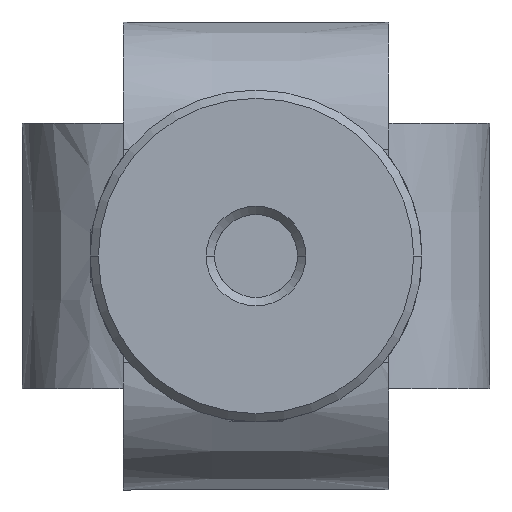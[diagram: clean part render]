
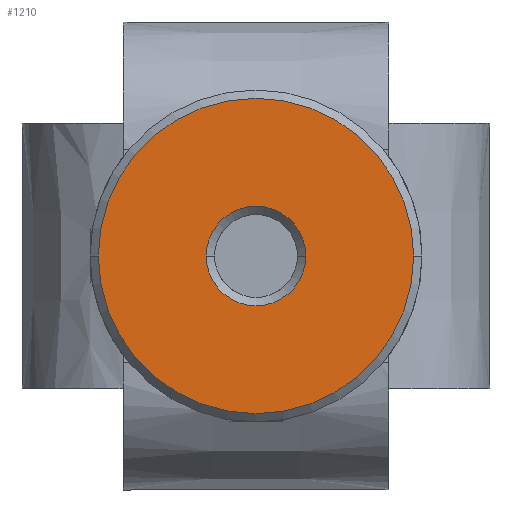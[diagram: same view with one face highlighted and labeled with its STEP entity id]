
A CAD part, front view. The second image highlights one B-rep face of the part: STEP entity #1210.
In plain terms, the highlighted planar face has unit normal (0, -1, 0).
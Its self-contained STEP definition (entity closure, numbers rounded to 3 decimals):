
#27 = CARTESIAN_POINT ( 'NONE',  ( 0., -35.24, 0. ) ) ;
#168 = DIRECTION ( 'NONE',  ( -1., 0., 0. ) ) ;
#750 = DIRECTION ( 'NONE',  ( -1., 0., 0. ) ) ;
#764 = CARTESIAN_POINT ( 'NONE',  ( 9.5, -35.24, 0. ) ) ;
#789 = EDGE_CURVE ( 'NONE', #2491, #4830, #3309, .T. ) ;
#918 = VERTEX_POINT ( 'NONE', #2017 ) ;
#1184 = CIRCLE ( 'NONE', #2052, 9.5 ) ;
#1210 = ADVANCED_FACE ( 'NONE', ( #2974, #5640 ), #3072, .T. ) ;
#1409 = AXIS2_PLACEMENT_3D ( 'NONE', #5890, #1763, #7754 ) ;
#1445 = CARTESIAN_POINT ( 'NONE',  ( 0., -35.24, 0. ) ) ;
#1747 = CIRCLE ( 'NONE', #5481, 3. ) ;
#1749 = EDGE_CURVE ( 'NONE', #4830, #2491, #1747, .T. ) ;
#1763 = DIRECTION ( 'NONE',  ( 0., 1., 0. ) ) ;
#1844 = EDGE_CURVE ( 'NONE', #918, #3381, #1184, .T. ) ;
#1863 = CARTESIAN_POINT ( 'NONE',  ( -3., -35.24, 0. ) ) ;
#2017 = CARTESIAN_POINT ( 'NONE',  ( -9.5, -35.24, 0. ) ) ;
#2052 = AXIS2_PLACEMENT_3D ( 'NONE', #5611, #5692, #6299 ) ;
#2238 = ORIENTED_EDGE ( 'NONE', *, *, #789, .T. ) ;
#2491 = VERTEX_POINT ( 'NONE', #7154 ) ;
#2819 = EDGE_LOOP ( 'NONE', ( #4311, #6407 ) ) ;
#2946 = CIRCLE ( 'NONE', #7548, 9.5 ) ;
#2974 = FACE_BOUND ( 'NONE', #6814, .T. ) ;
#3057 = DIRECTION ( 'NONE',  ( -1., 0., 0. ) ) ;
#3072 = PLANE ( 'NONE',  #5277 ) ;
#3309 = CIRCLE ( 'NONE', #1409, 3. ) ;
#3381 = VERTEX_POINT ( 'NONE', #764 ) ;
#4223 = DIRECTION ( 'NONE',  ( 0., -1., 0. ) ) ;
#4278 = EDGE_CURVE ( 'NONE', #3381, #918, #2946, .T. ) ;
#4311 = ORIENTED_EDGE ( 'NONE', *, *, #4278, .T. ) ;
#4675 = ORIENTED_EDGE ( 'NONE', *, *, #1749, .T. ) ;
#4830 = VERTEX_POINT ( 'NONE', #1863 ) ;
#4848 = CARTESIAN_POINT ( 'NONE',  ( 0., -35.24, 0. ) ) ;
#5277 = AXIS2_PLACEMENT_3D ( 'NONE', #4848, #6601, #750 ) ;
#5481 = AXIS2_PLACEMENT_3D ( 'NONE', #1445, #5511, #168 ) ;
#5511 = DIRECTION ( 'NONE',  ( 0., 1., 0. ) ) ;
#5611 = CARTESIAN_POINT ( 'NONE',  ( 0., -35.24, 0. ) ) ;
#5640 = FACE_OUTER_BOUND ( 'NONE', #2819, .T. ) ;
#5692 = DIRECTION ( 'NONE',  ( 0., -1., 0. ) ) ;
#5890 = CARTESIAN_POINT ( 'NONE',  ( 0., -35.24, 0. ) ) ;
#6299 = DIRECTION ( 'NONE',  ( -1., 0., 0. ) ) ;
#6407 = ORIENTED_EDGE ( 'NONE', *, *, #1844, .T. ) ;
#6601 = DIRECTION ( 'NONE',  ( 0., -1., 0. ) ) ;
#6814 = EDGE_LOOP ( 'NONE', ( #4675, #2238 ) ) ;
#7154 = CARTESIAN_POINT ( 'NONE',  ( 3., -35.24, 0. ) ) ;
#7548 = AXIS2_PLACEMENT_3D ( 'NONE', #27, #4223, #3057 ) ;
#7754 = DIRECTION ( 'NONE',  ( -1., 0., 0. ) ) ;
